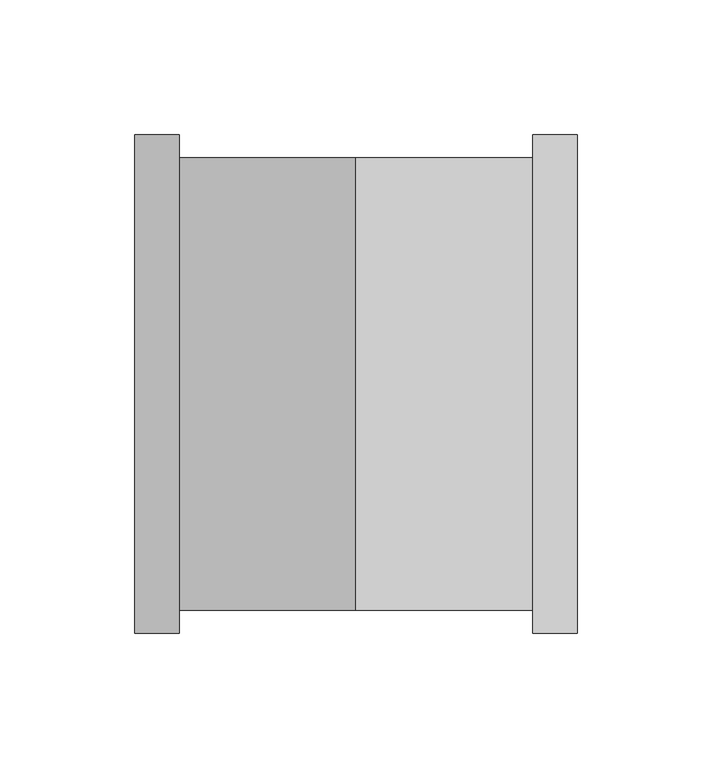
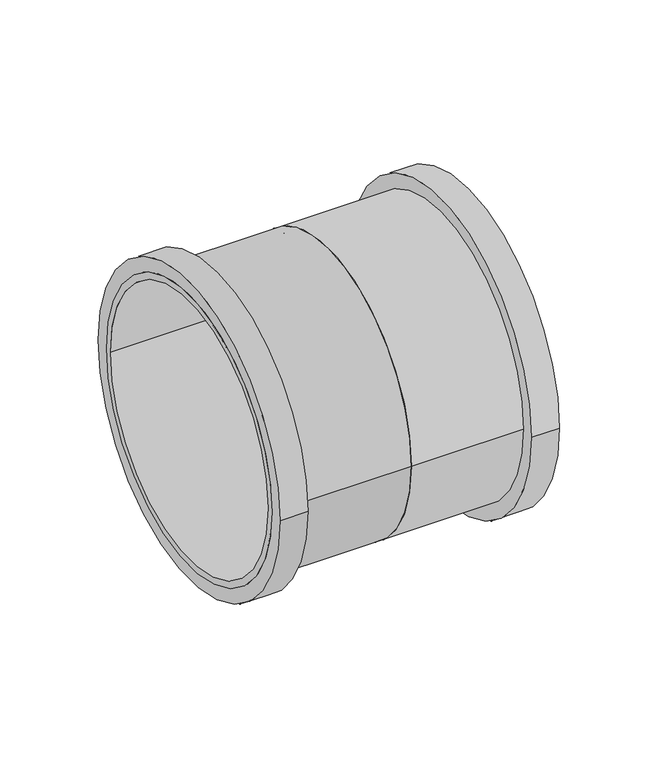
"""IFC4 building model written with IfcOpenShell, lengths in millimetres: pipe fitting geometry, Superdrain HTU-coupler : Superdrain HTU-coupler."""

import ifcopenshell
import ifcopenshell.guid

model = None  # the IFC model being written
_history = None  # IfcOwnerHistory: only IFC2X3 demands one
_inside = {}  # id of a spatial element -> (the spatial element, [elements in it])
_under = {}  # id of a project, library or spatial element -> (it, [spatial elements below it])
_declared = {}  # id of a project -> (the project, [libraries it declares])
_typed = {}  # id of a type object -> (the type object, [elements of that type])
_made_of = {}  # id of a material, layer set ... -> (it, [elements and type objects made of it])


def new_model(schema):
    """Start an empty IFC model of exactly this schema.

    Asked for "IFC4X3", IfcOpenShell would pick the latest addendum, in which some entities
    have other attributes; the version numbers below select the first issue.
    IFC2X3 requires an IfcOwnerHistory on every rooted entity: one is made here for all.
    """
    global model, _history
    if schema == "IFC4X3":
        model = ifcopenshell.file(schema_version=(4, 3, 0, 0))
    else:
        model = ifcopenshell.file(schema=schema)
    _inside.clear()
    _under.clear()
    _declared.clear()
    _typed.clear()
    _made_of.clear()
    _history = None
    if model.schema == "IFC2X3":
        org = make("IfcOrganization", Name="unknown")
        user = make(
            "IfcPersonAndOrganization",
            ThePerson=make("IfcPerson", FamilyName="unknown"),
            TheOrganization=org,
        )
        app = make(
            "IfcApplication",
            ApplicationDeveloper=org,
            Version="unknown",
            ApplicationFullName="unknown",
            ApplicationIdentifier="unknown",
        )
        _history = make(
            "IfcOwnerHistory",
            OwningUser=user,
            OwningApplication=app,
            ChangeAction="ADDED",
            CreationDate=0,
        )
    return model


def make(cls, **values):
    """One entity of the class cls with the attributes given. An attribute that is None is left unset."""
    return model.create_entity(
        cls, **{name: value for name, value in values.items() if value is not None}
    )


def rooted(cls, **values):
    """An entity with a GlobalId (a new one), such as an element, a storey or a relation."""
    return make(cls, GlobalId=ifcopenshell.guid.new(), OwnerHistory=_history, **values)


def si_unit(unit_type, name, prefix=None):
    """IfcSIUnit, for example si_unit("LENGTHUNIT", "METRE", prefix="MILLI")."""
    return make("IfcSIUnit", UnitType=unit_type, Prefix=prefix, Name=name)


def assignment(units):
    """IfcUnitAssignment: the units of a project."""
    return None if units is None else make("IfcUnitAssignment", Units=units)


def point(xyz):
    """IfcCartesianPoint."""
    return None if xyz is None else make("IfcCartesianPoint", Coordinates=xyz)


def direction(xyz):
    """IfcDirection."""
    return None if xyz is None else make("IfcDirection", DirectionRatios=xyz)


def frame(location, z_axis=None, x_axis=None):
    """IfcAxis2Placement3D, a coordinate frame: its origin and axes. An axis left out is left unset."""
    return make(
        "IfcAxis2Placement3D",
        Location=point(location),
        Axis=direction(z_axis),
        RefDirection=direction(x_axis),
    )


def frame_2d(location, x_axis=None):
    """IfcAxis2Placement2D, a coordinate frame in the plane: its origin and x axis."""
    return make(
        "IfcAxis2Placement2D", Location=point(location), RefDirection=direction(x_axis)
    )


def origin():
    """The frame at (0, 0, 0) with its axes left unset."""
    return frame((0.0, 0.0, 0.0))


def origin_2d():
    """The frame at (0, 0) in the plane with its x axis left unset."""
    return frame_2d((0.0, 0.0))


def place(relative_to, where):
    """IfcLocalPlacement: puts the frame where relative to a parent placement (None: the world)."""
    return make(
        "IfcLocalPlacement", PlacementRelTo=relative_to, RelativePlacement=where
    )


def context(
    kind, dimensions, precision=None, world=None, true_north=None, identifier=None
):
    """IfcGeometricRepresentationContext, for example the 3D "Model" context."""
    return make(
        "IfcGeometricRepresentationContext",
        ContextIdentifier=identifier,
        ContextType=kind,
        CoordinateSpaceDimension=dimensions,
        Precision=precision,
        WorldCoordinateSystem=world,
        TrueNorth=true_north,
    )


def project(units=None, contexts=None):
    """IfcProject with its units and contexts."""
    return rooted(
        "IfcProject",
        Name="project",
        RepresentationContexts=contexts,
        UnitsInContext=assignment(units),
    )


def spatial(cls, under=None, at=None, **own):
    """A site, building, storey or space (cls), placed at a placement, below another one or the project."""
    s = rooted(cls, ObjectPlacement=at, **own)
    if under is not None:
        _under.setdefault(under.id(), (under, []))[1].append(s)
    return s


def circle_curve(where, radius):
    """IfcCircle in the frame where."""
    return make("IfcCircle", Position=where, Radius=radius)


def trimmed(basis, trim1, trim2, sense, master):
    """IfcTrimmedCurve: the piece of a basis curve between two trims."""
    return make(
        "IfcTrimmedCurve",
        BasisCurve=basis,
        Trim1=trim1,
        Trim2=trim2,
        SenseAgreement=sense,
        MasterRepresentation=master,
    )


def segment(curve, same_sense, transition):
    """IfcCompositeCurveSegment."""
    return make(
        "IfcCompositeCurveSegment",
        Transition=transition,
        SameSense=same_sense,
        ParentCurve=curve,
    )


def composite_curve(segments, self_intersect=None):
    """IfcCompositeCurve: segments joined end to end."""
    return make("IfcCompositeCurve", Segments=segments, SelfIntersect=self_intersect)


def outline(outer, holes=None, kind="AREA"):
    """IfcArbitraryClosedProfileDef: a profile drawn as a closed curve; with holes, ...WithVoids."""
    if holes is None:
        return make("IfcArbitraryClosedProfileDef", ProfileType=kind, OuterCurve=outer)
    return make(
        "IfcArbitraryProfileDefWithVoids",
        ProfileType=kind,
        OuterCurve=outer,
        InnerCurves=holes,
    )


def extrude(swept, where, along, depth):
    """IfcExtrudedAreaSolid: the profile swept, set in the frame where, extruded along a direction by depth."""
    return make(
        "IfcExtrudedAreaSolid",
        SweptArea=swept,
        Position=where,
        ExtrudedDirection=direction(along),
        Depth=depth,
    )


def shape(context_of_items, identifier, shape_type, items):
    """IfcShapeRepresentation: the items that make up one representation, for example the "Body"."""
    return make(
        "IfcShapeRepresentation",
        ContextOfItems=context_of_items,
        RepresentationIdentifier=identifier,
        RepresentationType=shape_type,
        Items=items,
    )


def source(mapping_origin, context_of_items, identifier, shape_type, items):
    """IfcRepresentationMap: a shape defined once, which mapped items show again and again."""
    return make(
        "IfcRepresentationMap",
        MappingOrigin=mapping_origin,
        MappedRepresentation=shape(context_of_items, identifier, shape_type, items),
    )


def transform(
    local_origin,
    x_axis=None,
    y_axis=None,
    z_axis=None,
    scale=None,
    scale2=None,
    scale3=None,
    uniform=True,
):
    """IfcCartesianTransformationOperator3D, or its non-uniform kind. x_axis, y_axis, z_axis: its Axis1, 2, 3."""
    if uniform:
        return make(
            "IfcCartesianTransformationOperator3D",
            Axis1=direction(x_axis),
            Axis2=direction(y_axis),
            LocalOrigin=point(local_origin),
            Scale=scale,
            Axis3=direction(z_axis),
        )
    return make(
        "IfcCartesianTransformationOperator3DnonUniform",
        Axis1=direction(x_axis),
        Axis2=direction(y_axis),
        LocalOrigin=point(local_origin),
        Scale=scale,
        Axis3=direction(z_axis),
        Scale2=scale2,
        Scale3=scale3,
    )


def mapped(mapping_source, mapping_target):
    """IfcMappedItem: shows the shape of a source again, moved by a transform."""
    return make(
        "IfcMappedItem", MappingSource=mapping_source, MappingTarget=mapping_target
    )


def made_of(thing, what):
    """Note that an element or type object is made of a material, layer set ...; save() writes the relation."""
    if what is not None:
        _made_of.setdefault(what.id(), (what, []))[1].append(thing)
    return thing


def element(
    cls,
    number,
    at=None,
    inside=None,
    cuts=None,
    type_object=None,
    material=None,
    context=None,
    identifier="Body",
    shape_type=None,
    held_by="IfcProductDefinitionShape",
    body=None,
    shapes=None,
    **own,
):
    """One element of the class cls, such as IfcWall. Its Tag is "e" and its number.

    at: its placement. inside: the storey or other place that contains it. cuts: it is an
    opening in that element (IfcRelVoidsElement). A single representation is given by context,
    identifier, shape_type and body (its items); several are given by shapes. held_by: the class
    of the entity that holds the representations. save() writes the other relations.
    """
    e = rooted(cls, Tag="e%d" % number, ObjectPlacement=at, **own)
    if body is not None:
        shapes = [shape(context, identifier, shape_type, body)]
    if shapes is not None:
        e.Representation = make(held_by, Representations=shapes)
    if inside is not None:
        _inside.setdefault(inside.id(), (inside, []))[1].append(e)
    if cuts is not None:
        rooted(
            "IfcRelVoidsElement", RelatingBuildingElement=cuts, RelatedOpeningElement=e
        )
    if type_object is not None:
        _typed.setdefault(type_object.id(), (type_object, []))[1].append(e)
    return made_of(e, material)


def aggregate(whole, parts):
    """IfcRelAggregates: a whole, such as a stair, and the parts it consists of."""
    return rooted("IfcRelAggregates", RelatingObject=whole, RelatedObjects=parts)


def save(model, path):
    """Write the relations noted so far, then the file.

    IfcRelAggregates (storeys below a building ...), IfcRelContainedInSpatialStructure (elements
    in a storey), IfcRelDefinesByType, IfcRelAssociatesMaterial and IfcRelDeclares: one each for
    every whole, place, type object, material and project.
    """
    for whole, parts in _under.values():
        aggregate(whole, parts)
    for where, things in _inside.values():
        rooted(
            "IfcRelContainedInSpatialStructure",
            RelatedElements=things,
            RelatingStructure=where,
        )
    for kind, things in _typed.values():
        rooted("IfcRelDefinesByType", RelatedObjects=things, RelatingType=kind)
    for what, things in _made_of.values():
        rooted("IfcRelAssociatesMaterial", RelatedObjects=things, RelatingMaterial=what)
    for by, libraries in _declared.values():
        rooted("IfcRelDeclares", RelatingContext=by, RelatedDefinitions=libraries)
    model.write(path)


def pipe_fitting_0aba19ff(model_context):
    return source(origin(), model_context, "Body", "SweptSolid", [
        extrude(outline(composite_curve([segment(trimmed(circle_curve(origin_2d(), 84.0), [point((84.0, 0.0))], [point((-84.0, 0.0))], False, "CARTESIAN"), True, "CONTINUOUS"), segment(trimmed(circle_curve(origin_2d(), 84.0), [point((-84.0, 0.0))], [point((84.0, 0.0))], False, "CARTESIAN"), True, "CONTINUOUS")], self_intersect=False), holes=[composite_curve([segment(trimmed(circle_curve(origin_2d(), 80.0), [point((80.0, 0.0))], [point((-80.0, 0.0))], True, "CARTESIAN"), True, "CONTINUOUS"), segment(trimmed(circle_curve(origin_2d(), 80.0), [point((-80.0, 0.0))], [point((80.0, 0.0))], True, "CARTESIAN"), True, "CONTINUOUS")], self_intersect=False)]), frame((0.0, 0.0, 0.0), z_axis=(1.0, 0.0, 0.0), x_axis=(0.0, 1.0, 0.0)), (0.0, 0.0, 1.0), 82.0),
        extrude(outline(composite_curve([segment(trimmed(circle_curve(origin_2d(), 92.4), [point((92.4, 0.0))], [point((-92.4, 0.0))], False, "CARTESIAN"), True, "CONTINUOUS"), segment(trimmed(circle_curve(origin_2d(), 92.4), [point((-92.4, 0.0))], [point((92.4, 0.0))], False, "CARTESIAN"), True, "CONTINUOUS")], self_intersect=False), holes=[composite_curve([segment(trimmed(circle_curve(origin_2d(), 80.0), [point((80.0, 0.0))], [point((-80.0, 0.0))], True, "CARTESIAN"), True, "CONTINUOUS"), segment(trimmed(circle_curve(origin_2d(), 80.0), [point((-80.0, 0.0))], [point((80.0, 0.0))], True, "CARTESIAN"), True, "CONTINUOUS")], self_intersect=False)]), frame((65.6, 0.0, 0.0), z_axis=(1.0, 0.0, 0.0), x_axis=(0.0, 1.0, 0.0)), (0.0, 0.0, 1.0), 16.4),
        extrude(outline(composite_curve([segment(trimmed(circle_curve(origin_2d(), 84.0), [point((-84.0, 0.0))], [point((84.0, 0.0))], False, "CARTESIAN"), True, "CONTINUOUS"), segment(trimmed(circle_curve(origin_2d(), 84.0), [point((84.0, 0.0))], [point((-84.0, 0.0))], False, "CARTESIAN"), True, "CONTINUOUS")], self_intersect=False), holes=[composite_curve([segment(trimmed(circle_curve(origin_2d(), 80.0), [point((-80.0, 0.0))], [point((80.0, 0.0))], True, "CARTESIAN"), True, "CONTINUOUS"), segment(trimmed(circle_curve(origin_2d(), 80.0), [point((80.0, 0.0))], [point((-80.0, 0.0))], True, "CARTESIAN"), True, "CONTINUOUS")], self_intersect=False)]), frame((-82.0, 0.0, 0.0), z_axis=(1.0, 0.0, 0.0), x_axis=(0.0, 1.0, 0.0)), (0.0, 0.0, 1.0), 82.0),
        extrude(outline(composite_curve([segment(trimmed(circle_curve(origin_2d(), 92.4), [point((-92.4, 0.0))], [point((92.4, 0.0))], False, "CARTESIAN"), True, "CONTINUOUS"), segment(trimmed(circle_curve(origin_2d(), 92.4), [point((92.4, 0.0))], [point((-92.4, 0.0))], False, "CARTESIAN"), True, "CONTINUOUS")], self_intersect=False), holes=[composite_curve([segment(trimmed(circle_curve(origin_2d(), 80.0), [point((-80.0, 0.0))], [point((80.0, 0.0))], True, "CARTESIAN"), True, "CONTINUOUS"), segment(trimmed(circle_curve(origin_2d(), 80.0), [point((80.0, 0.0))], [point((-80.0, 0.0))], True, "CARTESIAN"), True, "CONTINUOUS")], self_intersect=False)]), frame((-82.0, 0.0, 0.0), z_axis=(1.0, 0.0, 0.0), x_axis=(0.0, 1.0, 0.0)), (0.0, 0.0, 1.0), 16.4),
    ])


if __name__ == "__main__":
    model = new_model("IFC4")
    model_context = context("Model", 3, world=origin())
    ifc_project = project(units=[si_unit("LENGTHUNIT", "METRE", prefix="MILLI")], contexts=[model_context])
    site = spatial("IfcSite", under=ifc_project)
    building = spatial("IfcBuilding", under=site)
    placement = place(None, origin())
    pipe_fitting_shape = pipe_fitting_0aba19ff(model_context)
    element("IfcPipeFitting", 1, ObjectType="Superdrain HTU-coupler : Superdrain HTU-coupler", at=placement, inside=building, context=model_context, shape_type="MappedRepresentation", body=[
        mapped(pipe_fitting_shape, transform((0.0, 0.0, 0.0), x_axis=(1.0, 0.0, 0.0), y_axis=(0.0, 1.0, 0.0), z_axis=(0.0, 0.0, 1.0))),
    ])
    save(model, "model.ifc")
